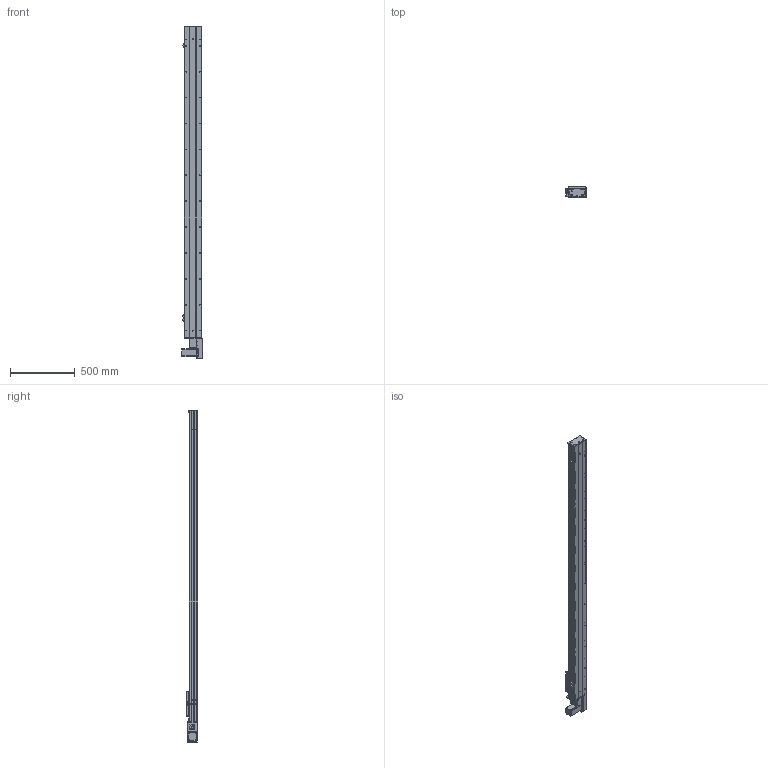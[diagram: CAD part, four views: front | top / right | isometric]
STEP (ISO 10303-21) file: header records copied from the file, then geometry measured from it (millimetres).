
FILE_DESCRIPTION (( 'STEP AP203' ), '1' );
FILE_NAME ('Y135CB-D90-S2100-BL-P400W.STEP', '2020-02-18T01:32:30', ( '微软用户' ), ( '微软中国' ), 'SwSTEP 2.0', 'SolidWorks 2017', '' );
FILE_SCHEMA (( 'CONFIG_CONTROL_DESIGN' ));
Length unit declared in the file: millimetre
Products named in the file (18): Y135CB-D90-S2100-BL-P400W; Y10B--々湍喘謫眊--666; san松下电机400不带刹车----; Y10B-耜蚾蟀諉啣----; 5CB --掛极耜裔啣-; C-詩湍揤踡え-陔; 135CB--詩湍-CE; Y100-135俋离換覜ん--; Y俋欶BR----; Y135C-陔俋离換覜結え-; Y135CB-耜裔; 0B-埴倛裔啣; 5C--俋欶; 135CB---遴掛极.-; 0B-源倛裔啣; C-雄赽釱--; 35CB---喘謫眊楊擘啣; 0B-萇儂楊擘啣
Assembly tree (21 placements, depth 2):
  Y135CB-D90-S2100-BL-P400W
    Y135CB-耜裔
    135CB---遴掛极.-
    35CB---喘謫眊楊擘啣
    Y10B--々湍喘謫眊--666
    Y10B-耜蚾蟀諉啣----
    Y俋欶BR----
    0B-埴倛裔啣
    0B-源倛裔啣
    0B-萇儂楊擘啣
    san松下电机400不带刹车----
    5CB --掛极耜裔啣-  x2
    C-詩湍揤踡え-陔  x2
    135CB--詩湍-CE
    Y100-135俋离換覜ん--  x3
    Y135C-陔俋离換覜結え-
    5C--俋欶
    C-雄赽釱--
Bounding box: 157.5 x 91 x 2564.5 mm (x, y, z)
Volume: 7243790.8 mm3; surface area: 2864151.8 mm2
Topology: 21 solids, 21 shells, 969 faces, 2635 edges, 1746 vertices
Faces by surface type: cylinder 495, plane 458, cone 16
Entity records: 30553 total; most frequent: CARTESIAN_POINT 5076, DIRECTION 5075, ORIENTED_EDGE 4746, EDGE_CURVE 2373, AXIS2_PLACEMENT_3D 1857, VERTEX_POINT 1574, LINE 1361, VECTOR 1361
